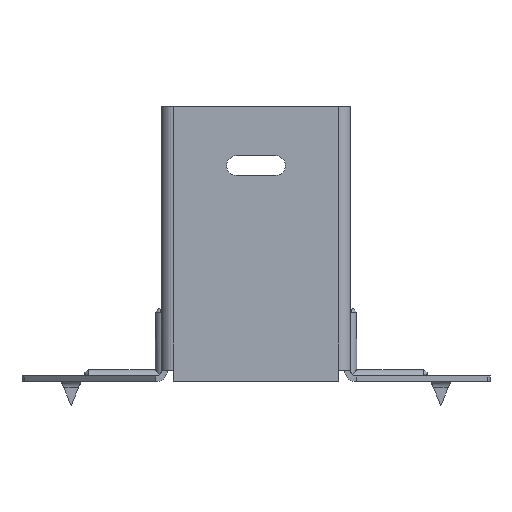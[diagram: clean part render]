
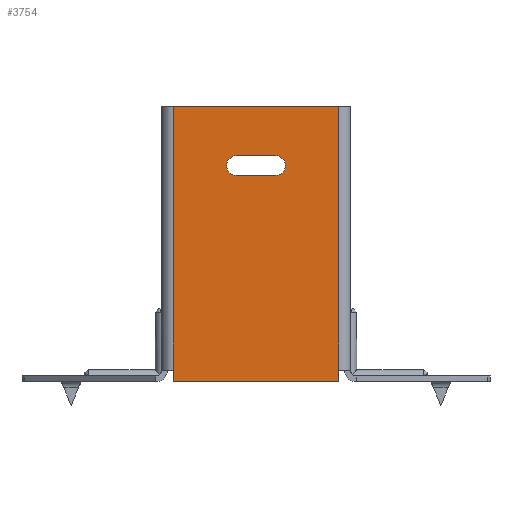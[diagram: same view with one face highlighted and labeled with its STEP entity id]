
A CAD part, front view. The second image highlights one B-rep face of the part: STEP entity #3754.
In plain terms, the highlighted planar face has unit normal (0, -1, 0).
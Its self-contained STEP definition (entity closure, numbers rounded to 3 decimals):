
#2 = DIRECTION ( 'NONE',  ( 0., 0., -1. ) ) ;
#90 = DIRECTION ( 'NONE',  ( 0., 1., 0. ) ) ;
#108 = CARTESIAN_POINT ( 'NONE',  ( -5., 0., -17.5 ) ) ;
#156 = CARTESIAN_POINT ( 'NONE',  ( 21., 0., -67. ) ) ;
#353 = CARTESIAN_POINT ( 'NONE',  ( 21., 0., -70. ) ) ;
#380 = CARTESIAN_POINT ( 'NONE',  ( 21., 0., 0. ) ) ;
#777 = LINE ( 'NONE', #8977, #8520 ) ;
#896 = ORIENTED_EDGE ( 'NONE', *, *, #4257, .T. ) ;
#927 = EDGE_CURVE ( 'NONE', #4402, #4280, #5448, .T. ) ;
#932 = CIRCLE ( 'NONE', #6618, 2.5 ) ;
#1100 = VECTOR ( 'NONE', #9399, 1000. ) ;
#1329 = LINE ( 'NONE', #2664, #1100 ) ;
#1398 = EDGE_CURVE ( 'NONE', #4402, #3023, #1329, .T. ) ;
#1514 = LINE ( 'NONE', #3821, #1866 ) ;
#1601 = DIRECTION ( 'NONE',  ( -1., 0., 0. ) ) ;
#1794 = CARTESIAN_POINT ( 'NONE',  ( -21., 0., 0. ) ) ;
#1850 = DIRECTION ( 'NONE',  ( 0., 1., 0. ) ) ;
#1866 = VECTOR ( 'NONE', #8323, 1000. ) ;
#2225 = EDGE_CURVE ( 'NONE', #4365, #4619, #4759, .T. ) ;
#2299 = EDGE_CURVE ( 'NONE', #4203, #3023, #5332, .T. ) ;
#2542 = DIRECTION ( 'NONE',  ( 0., 0., -1. ) ) ;
#2593 = FACE_OUTER_BOUND ( 'NONE', #5736, .T. ) ;
#2622 = CARTESIAN_POINT ( 'NONE',  ( 5., 0., -15. ) ) ;
#2624 = ORIENTED_EDGE ( 'NONE', *, *, #4049, .F. ) ;
#2639 = VECTOR ( 'NONE', #1601, 1000. ) ;
#2664 = CARTESIAN_POINT ( 'NONE',  ( -22.5, 0., 0. ) ) ;
#2755 = CARTESIAN_POINT ( 'NONE',  ( 21., 0., -70. ) ) ;
#3023 = VERTEX_POINT ( 'NONE', #380 ) ;
#3112 = VERTEX_POINT ( 'NONE', #2755 ) ;
#3476 = CARTESIAN_POINT ( 'NONE',  ( -21., 0., -70. ) ) ;
#3550 = CARTESIAN_POINT ( 'NONE',  ( 5., 0., -17.5 ) ) ;
#3621 = PLANE ( 'NONE',  #8224 ) ;
#3754 = ADVANCED_FACE ( 'NONE', ( #5544, #2593 ), #3621, .F. ) ;
#3821 = CARTESIAN_POINT ( 'NONE',  ( -5., 0., -12.5 ) ) ;
#4038 = DIRECTION ( 'NONE',  ( 0., 0., 1. ) ) ;
#4049 = EDGE_CURVE ( 'NONE', #3112, #7610, #8344, .T. ) ;
#4203 = VERTEX_POINT ( 'NONE', #156 ) ;
#4257 = EDGE_CURVE ( 'NONE', #6396, #8974, #932, .T. ) ;
#4280 = VERTEX_POINT ( 'NONE', #8368 ) ;
#4332 = ORIENTED_EDGE ( 'NONE', *, *, #8151, .T. ) ;
#4365 = VERTEX_POINT ( 'NONE', #5755 ) ;
#4402 = VERTEX_POINT ( 'NONE', #7118 ) ;
#4514 = CARTESIAN_POINT ( 'NONE',  ( -22.5, 0., -70. ) ) ;
#4619 = VERTEX_POINT ( 'NONE', #3550 ) ;
#4658 = DIRECTION ( 'NONE',  ( 0., 0., 1. ) ) ;
#4694 = CARTESIAN_POINT ( 'NONE',  ( -5., 0., -15. ) ) ;
#4759 = CIRCLE ( 'NONE', #7284, 2.5 ) ;
#4949 = ORIENTED_EDGE ( 'NONE', *, *, #1398, .F. ) ;
#5041 = DIRECTION ( 'NONE',  ( 0., 0., 1. ) ) ;
#5071 = EDGE_CURVE ( 'NONE', #3112, #4203, #7723, .T. ) ;
#5098 = VECTOR ( 'NONE', #5600, 1000. ) ;
#5130 = ORIENTED_EDGE ( 'NONE', *, *, #927, .T. ) ;
#5168 = VECTOR ( 'NONE', #5803, 1000. ) ;
#5233 = EDGE_CURVE ( 'NONE', #8974, #4365, #1514, .T. ) ;
#5332 = LINE ( 'NONE', #353, #5098 ) ;
#5448 = LINE ( 'NONE', #1794, #8575 ) ;
#5544 = FACE_BOUND ( 'NONE', #6406, .T. ) ;
#5600 = DIRECTION ( 'NONE',  ( 0., 0., 1. ) ) ;
#5736 = EDGE_LOOP ( 'NONE', ( #5130, #8714, #2624, #7789, #8848, #4949 ) ) ;
#5755 = CARTESIAN_POINT ( 'NONE',  ( 5., 0., -12.5 ) ) ;
#5797 = ORIENTED_EDGE ( 'NONE', *, *, #2225, .T. ) ;
#5803 = DIRECTION ( 'NONE',  ( 0., 0., 1. ) ) ;
#6396 = VERTEX_POINT ( 'NONE', #9371 ) ;
#6406 = EDGE_LOOP ( 'NONE', ( #4332, #896, #8852, #5797 ) ) ;
#6618 = AXIS2_PLACEMENT_3D ( 'NONE', #4694, #90, #4658 ) ;
#7045 = VECTOR ( 'NONE', #9030, 1000. ) ;
#7118 = CARTESIAN_POINT ( 'NONE',  ( -21., 0., 0. ) ) ;
#7284 = AXIS2_PLACEMENT_3D ( 'NONE', #2622, #1850, #4038 ) ;
#7610 = VERTEX_POINT ( 'NONE', #3476 ) ;
#7723 = LINE ( 'NONE', #8670, #5168 ) ;
#7730 = EDGE_CURVE ( 'NONE', #4280, #7610, #777, .T. ) ;
#7789 = ORIENTED_EDGE ( 'NONE', *, *, #5071, .T. ) ;
#8151 = EDGE_CURVE ( 'NONE', #4619, #6396, #9224, .T. ) ;
#8224 = AXIS2_PLACEMENT_3D ( 'NONE', #9493, #9591, #5041 ) ;
#8323 = DIRECTION ( 'NONE',  ( 1., 0., 0. ) ) ;
#8344 = LINE ( 'NONE', #4514, #7045 ) ;
#8368 = CARTESIAN_POINT ( 'NONE',  ( -21., 0., -67. ) ) ;
#8520 = VECTOR ( 'NONE', #2, 1000. ) ;
#8575 = VECTOR ( 'NONE', #2542, 1000. ) ;
#8670 = CARTESIAN_POINT ( 'NONE',  ( 21., 0., -70. ) ) ;
#8714 = ORIENTED_EDGE ( 'NONE', *, *, #7730, .T. ) ;
#8848 = ORIENTED_EDGE ( 'NONE', *, *, #2299, .T. ) ;
#8852 = ORIENTED_EDGE ( 'NONE', *, *, #5233, .T. ) ;
#8974 = VERTEX_POINT ( 'NONE', #9601 ) ;
#8977 = CARTESIAN_POINT ( 'NONE',  ( -21., 0., 0. ) ) ;
#9030 = DIRECTION ( 'NONE',  ( -1., 0., 0. ) ) ;
#9224 = LINE ( 'NONE', #108, #2639 ) ;
#9371 = CARTESIAN_POINT ( 'NONE',  ( -5., 0., -17.5 ) ) ;
#9399 = DIRECTION ( 'NONE',  ( 1., 0., 0. ) ) ;
#9493 = CARTESIAN_POINT ( 'NONE',  ( 0., 0., 0. ) ) ;
#9591 = DIRECTION ( 'NONE',  ( 0., 1., 0. ) ) ;
#9601 = CARTESIAN_POINT ( 'NONE',  ( -5., 0., -12.5 ) ) ;
